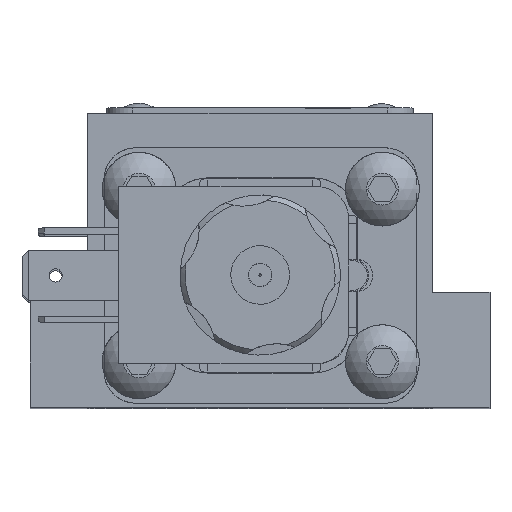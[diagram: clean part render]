
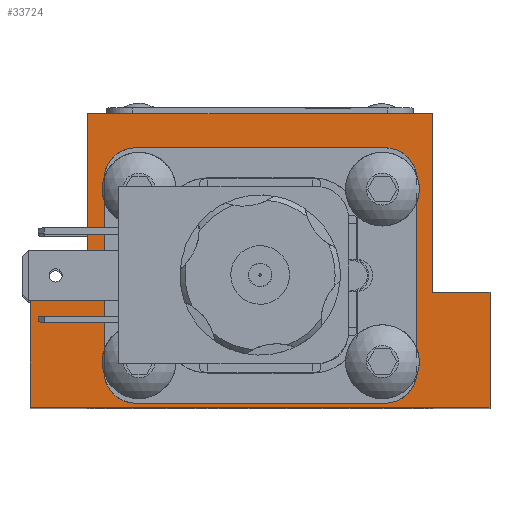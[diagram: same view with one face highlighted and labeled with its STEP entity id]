
A CAD part, top view. The second image highlights one B-rep face of the part: STEP entity #33724.
In plain terms, the highlighted planar face has unit normal (0, 0, 1).
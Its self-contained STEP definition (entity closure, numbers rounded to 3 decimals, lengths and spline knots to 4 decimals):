
#1157=FACE_BOUND('',#4808,.T.);
#1528=PLANE('',#36277);
#2764=FACE_OUTER_BOUND('',#4807,.T.);
#4807=EDGE_LOOP('',(#23682,#23683,#23684,#23685,#23686,#23687,#23688,#23689));
#4808=EDGE_LOOP('',(#23690,#23691,#23692,#23693,#23694,#23695,#23696,#23697));
#6967=CIRCLE('',#36278,0.4);
#6968=CIRCLE('',#36279,0.4);
#6969=CIRCLE('',#36280,0.4);
#6970=CIRCLE('',#36281,0.4);
#8799=LINE('',#55938,#11197);
#8800=LINE('',#55940,#11198);
#8801=LINE('',#55942,#11199);
#8802=LINE('',#55944,#11200);
#8803=LINE('',#55946,#11201);
#8804=LINE('',#55948,#11202);
#8805=LINE('',#55950,#11203);
#8806=LINE('',#55951,#11204);
#8807=LINE('',#55956,#11205);
#8808=LINE('',#55960,#11206);
#8809=LINE('',#55964,#11207);
#8810=LINE('',#55967,#11208);
#11197=VECTOR('',#41672,1.);
#11198=VECTOR('',#41673,1.);
#11199=VECTOR('',#41674,1.);
#11200=VECTOR('',#41675,1.);
#11201=VECTOR('',#41676,1.);
#11202=VECTOR('',#41677,1.);
#11203=VECTOR('',#41678,1.);
#11204=VECTOR('',#41679,1.);
#11205=VECTOR('',#41682,1.);
#11206=VECTOR('',#41685,1.);
#11207=VECTOR('',#41688,1.);
#11208=VECTOR('',#41691,1.);
#13989=VERTEX_POINT('',#55936);
#13990=VERTEX_POINT('',#55937);
#13991=VERTEX_POINT('',#55939);
#13992=VERTEX_POINT('',#55941);
#13993=VERTEX_POINT('',#55943);
#13994=VERTEX_POINT('',#55945);
#13995=VERTEX_POINT('',#55947);
#13996=VERTEX_POINT('',#55949);
#13997=VERTEX_POINT('',#55952);
#13998=VERTEX_POINT('',#55953);
#13999=VERTEX_POINT('',#55955);
#14000=VERTEX_POINT('',#55957);
#14001=VERTEX_POINT('',#55959);
#14002=VERTEX_POINT('',#55961);
#14003=VERTEX_POINT('',#55963);
#14004=VERTEX_POINT('',#55965);
#17557=EDGE_CURVE('',#13989,#13990,#8799,.T.);
#17558=EDGE_CURVE('',#13991,#13989,#8800,.T.);
#17559=EDGE_CURVE('',#13992,#13991,#8801,.T.);
#17560=EDGE_CURVE('',#13993,#13992,#8802,.T.);
#17561=EDGE_CURVE('',#13994,#13993,#8803,.T.);
#17562=EDGE_CURVE('',#13995,#13994,#8804,.T.);
#17563=EDGE_CURVE('',#13996,#13995,#8805,.T.);
#17564=EDGE_CURVE('',#13990,#13996,#8806,.T.);
#17565=EDGE_CURVE('',#13997,#13998,#6967,.T.);
#17566=EDGE_CURVE('',#13997,#13999,#8807,.T.);
#17567=EDGE_CURVE('',#14000,#13999,#6968,.T.);
#17568=EDGE_CURVE('',#14000,#14001,#8808,.T.);
#17569=EDGE_CURVE('',#14002,#14001,#6969,.T.);
#17570=EDGE_CURVE('',#14002,#14003,#8809,.T.);
#17571=EDGE_CURVE('',#14004,#14003,#6970,.T.);
#17572=EDGE_CURVE('',#14004,#13998,#8810,.T.);
#23682=ORIENTED_EDGE('',*,*,#17557,.F.);
#23683=ORIENTED_EDGE('',*,*,#17558,.F.);
#23684=ORIENTED_EDGE('',*,*,#17559,.F.);
#23685=ORIENTED_EDGE('',*,*,#17560,.F.);
#23686=ORIENTED_EDGE('',*,*,#17561,.F.);
#23687=ORIENTED_EDGE('',*,*,#17562,.F.);
#23688=ORIENTED_EDGE('',*,*,#17563,.F.);
#23689=ORIENTED_EDGE('',*,*,#17564,.F.);
#23690=ORIENTED_EDGE('',*,*,#17565,.F.);
#23691=ORIENTED_EDGE('',*,*,#17566,.T.);
#23692=ORIENTED_EDGE('',*,*,#17567,.F.);
#23693=ORIENTED_EDGE('',*,*,#17568,.T.);
#23694=ORIENTED_EDGE('',*,*,#17569,.F.);
#23695=ORIENTED_EDGE('',*,*,#17570,.T.);
#23696=ORIENTED_EDGE('',*,*,#17571,.F.);
#23697=ORIENTED_EDGE('',*,*,#17572,.T.);
#33724=ADVANCED_FACE('',(#2764,#1157),#1528,.T.);
#36277=AXIS2_PLACEMENT_3D('',#55935,#41670,#41671);
#36278=AXIS2_PLACEMENT_3D('',#55954,#41680,#41681);
#36279=AXIS2_PLACEMENT_3D('',#55958,#41683,#41684);
#36280=AXIS2_PLACEMENT_3D('',#55962,#41686,#41687);
#36281=AXIS2_PLACEMENT_3D('',#55966,#41689,#41690);
#41670=DIRECTION('center_axis',(0.,0.,1.));
#41671=DIRECTION('ref_axis',(1.,0.,0.));
#41672=DIRECTION('',(0.,1.,0.));
#41673=DIRECTION('',(-1.,0.,0.));
#41674=DIRECTION('',(0.,-1.,0.));
#41675=DIRECTION('',(1.,0.,0.));
#41676=DIRECTION('',(0.,-1.,0.));
#41677=DIRECTION('',(1.,0.,0.));
#41678=DIRECTION('',(0.,1.,0.));
#41679=DIRECTION('',(1.,0.,0.));
#41680=DIRECTION('center_axis',(0.,0.,
1.));
#41681=DIRECTION('ref_axis',(-0.707,0.707,0.));
#41682=DIRECTION('',(1.,0.,0.));
#41683=DIRECTION('center_axis',(0.,0.,
1.));
#41684=DIRECTION('ref_axis',(0.707,0.707,0.));
#41685=DIRECTION('',(0.,-1.,0.));
#41686=DIRECTION('center_axis',(0.,0.,
1.));
#41687=DIRECTION('ref_axis',(0.707,-0.707,0.));
#41688=DIRECTION('',(-1.,0.,0.));
#41689=DIRECTION('center_axis',(0.,0.,
1.));
#41690=DIRECTION('ref_axis',(-0.707,-0.707,0.));
#41691=DIRECTION('',(0.,1.,0.));
#55935=CARTESIAN_POINT('Origin',(0.,0.0204,4.7104));
#55936=CARTESIAN_POINT('',(-2.8575,-1.6358,4.7104));
#55937=CARTESIAN_POINT('',(-2.8575,-0.207,4.7104));
#55938=CARTESIAN_POINT('',(-2.8575,-0.207,4.7104));
#55939=CARTESIAN_POINT('',(2.8575,-1.6358,4.7104));
#55940=CARTESIAN_POINT('',(-2.8575,-1.6358,4.7104));
#55941=CARTESIAN_POINT('',(2.8575,-0.207,4.7104));
#55942=CARTESIAN_POINT('',(2.8575,-1.6358,4.7104));
#55943=CARTESIAN_POINT('',(2.1431,-0.207,4.7104));
#55944=CARTESIAN_POINT('',(2.8575,-0.207,4.7104));
#55945=CARTESIAN_POINT('',(2.1431,2.0155,4.7104));
#55946=CARTESIAN_POINT('',(2.1431,-0.207,4.7104));
#55947=CARTESIAN_POINT('',(-2.1431,2.0155,4.7104));
#55948=CARTESIAN_POINT('',(2.1431,2.0155,4.7104));
#55949=CARTESIAN_POINT('',(-2.1431,-0.207,4.7104));
#55950=CARTESIAN_POINT('',(-2.1431,2.0155,4.7104));
#55951=CARTESIAN_POINT('',(-2.1431,-0.207,4.7104));
#55952=CARTESIAN_POINT('',(-1.54,1.575,4.7104));
#55953=CARTESIAN_POINT('',(-1.94,1.175,4.7104));
#55954=CARTESIAN_POINT('Origin',(-1.54,1.175,4.7104));
#55955=CARTESIAN_POINT('',(1.54,1.575,4.7104));
#55956=CARTESIAN_POINT('',(-1.94,1.575,4.7104));
#55957=CARTESIAN_POINT('',(1.94,1.175,4.7104));
#55958=CARTESIAN_POINT('Origin',(1.54,1.175,4.7104));
#55959=CARTESIAN_POINT('',(1.94,-1.175,4.7104));
#55960=CARTESIAN_POINT('',(1.94,1.575,4.7104));
#55961=CARTESIAN_POINT('',(1.54,-1.575,4.7104));
#55962=CARTESIAN_POINT('Origin',(1.54,-1.175,4.7104));
#55963=CARTESIAN_POINT('',(-1.54,-1.575,4.7104));
#55964=CARTESIAN_POINT('',(1.94,-1.575,4.7104));
#55965=CARTESIAN_POINT('',(-1.94,-1.175,4.7104));
#55966=CARTESIAN_POINT('Origin',(-1.54,-1.175,4.7104));
#55967=CARTESIAN_POINT('',(-1.94,-1.575,4.7104));
